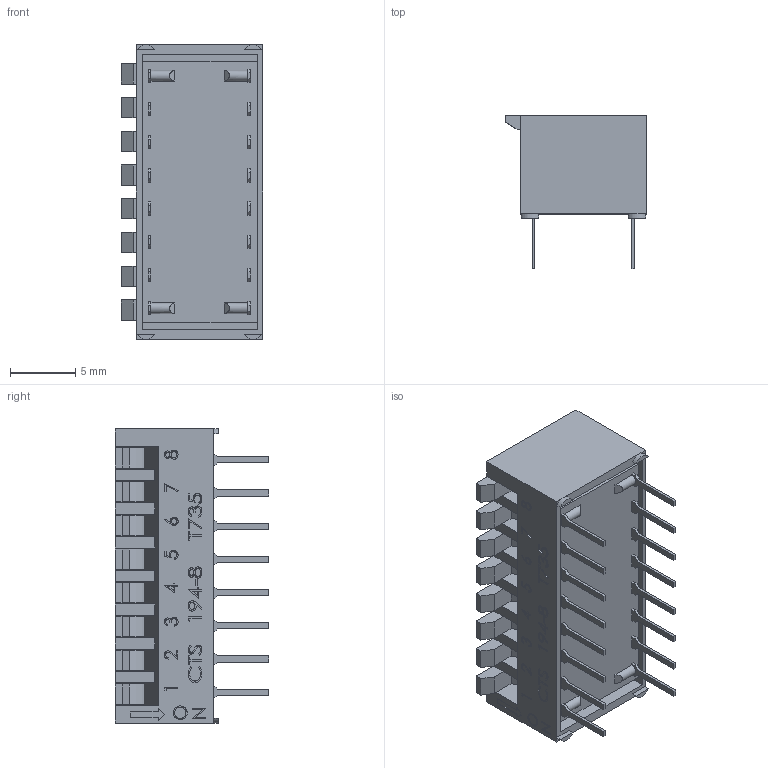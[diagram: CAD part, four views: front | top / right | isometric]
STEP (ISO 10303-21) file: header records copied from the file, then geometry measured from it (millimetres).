
FILE_DESCRIPTION (( 'STEP AP214' ), '1' );
FILE_NAME ('194-8MS.STEP', '2019-05-24T05:55:32', ( '' ), ( '' ), 'SwSTEP 2.0', 'SolidWorks 2019', '' );
FILE_SCHEMA (( 'AUTOMOTIVE_DESIGN' ));
Length unit declared in the file: millimetre
Products named in the file (4): 193-56-001; 194-8MS; 194-8 pole assembly; 194-40-108
Assembly tree (10 placements, depth 2):
  194-8MS
    194-40-108
    193-56-001  x8
    194-8 pole assembly
Bounding box: 10.79 x 11.71 x 22.5 mm (x, y, z)
Volume: 1147.8 mm3; surface area: 2542.5 mm2
Topology: 10 solids, 10 shells, 634 faces, 1736 edges, 1156 vertices
Faces by surface type: plane 452, bspline 134, cylinder 48
Entity records: 28196 total; most frequent: CARTESIAN_POINT 11691, ORIENTED_EDGE 3052, DIRECTION 2152, EDGE_CURVE 1526, VECTOR 1214, LINE 1214, VERTEX_POINT 1016, EDGE_LOOP 600
